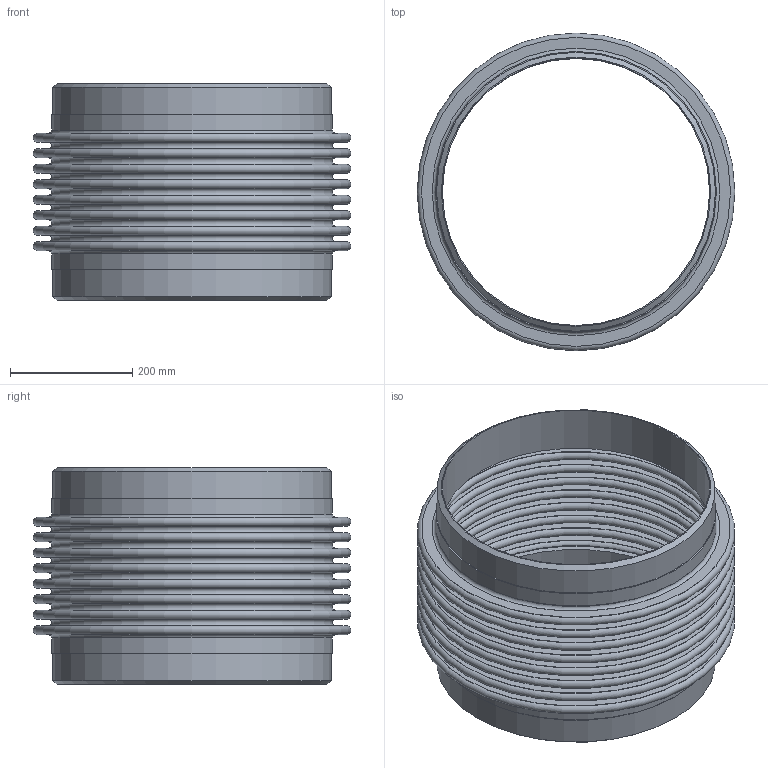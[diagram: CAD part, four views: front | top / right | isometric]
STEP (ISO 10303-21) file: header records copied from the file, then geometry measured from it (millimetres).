
FILE_DESCRIPTION(/* description */ (''),/* implementation_level */ '2;1');
FILE_NAME(/* name */ 'PIPE- 18 - 150 PSIG ASSEMBLY PART.stp',/* time_stamp */ '2026-07-24T15:38:36-05:00',/* author */ ('jorgef'),/* organization */ (''),/* preprocessor_version */ 'ST-DEVELOPER v20.1',/* originating_system */ 'Autodesk Inventor 2026',/* authorisation */ '');
FILE_SCHEMA (('AUTOMOTIVE_DESIGN { 1 0 10303 214 3 1 1 }'));
Length unit declared in the file: inch
Products named in the file (1): PIPE- 18 - 150 PSIG ASSEMBLY PART
Bounding box: 520.7 x 520.7 x 355.6 mm (x, y, z)
Volume: 3488158.7 mm3; surface area: 2317552.3 mm2
Topology: 1 solids, 1 shells, 80 faces, 126 edges, 84 vertices
Faces by surface type: plane 38, torus 34, cylinder 6, cone 2
Full cylindrical faces by diameter (mm): 438.15 x2, 457.2 x2, 460.248 x2
Entity records: 2035 total; most frequent: DIRECTION 406, CARTESIAN_POINT 291, ORIENTED_EDGE 252, AXIS2_PLACEMENT_3D 199, EDGE_CURVE 126, EDGE_LOOP 118, CIRCLE 118, VERTEX_POINT 84
